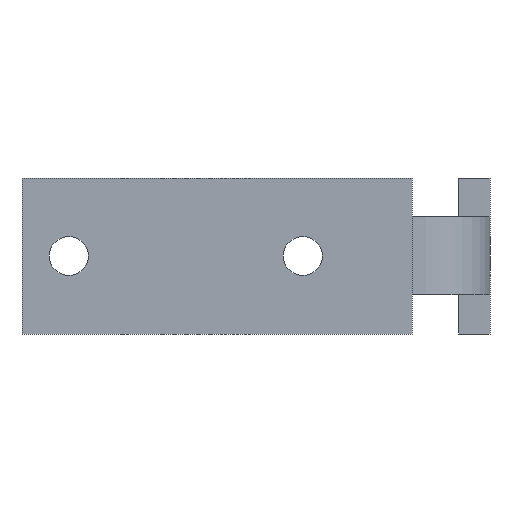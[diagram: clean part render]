
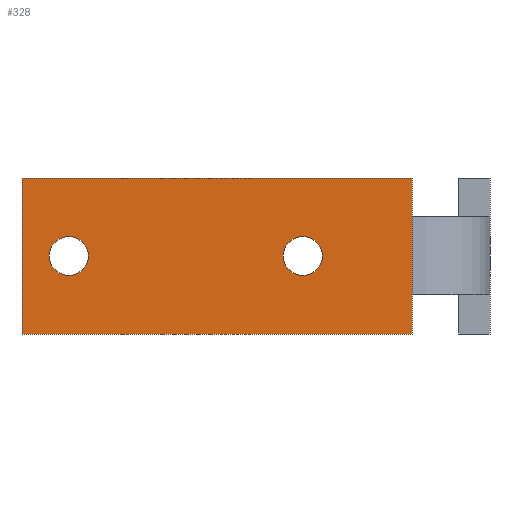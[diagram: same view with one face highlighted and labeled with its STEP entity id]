
A CAD part, front view. The second image highlights one B-rep face of the part: STEP entity #328.
In plain terms, the highlighted planar face has unit normal (0, -1, 0).
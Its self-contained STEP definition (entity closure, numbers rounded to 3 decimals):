
#11 = VECTOR ( 'NONE', #379, 1000. ) ;
#12 = DIRECTION ( 'NONE',  ( 0., 0., 1. ) ) ;
#26 = ORIENTED_EDGE ( 'NONE', *, *, #778, .T. ) ;
#34 = LINE ( 'NONE', #707, #427 ) ;
#45 = PLANE ( 'NONE',  #935 ) ;
#49 = VERTEX_POINT ( 'NONE', #544 ) ;
#78 = VERTEX_POINT ( 'NONE', #364 ) ;
#81 = EDGE_CURVE ( 'NONE', #682, #309, #169, .T. ) ;
#103 = EDGE_LOOP ( 'NONE', ( #853, #26 ) ) ;
#104 = VECTOR ( 'NONE', #665, 1000. ) ;
#110 = VECTOR ( 'NONE', #175, 1000. ) ;
#115 = CARTESIAN_POINT ( 'NONE',  ( 50., 0., -10. ) ) ;
#121 = ORIENTED_EDGE ( 'NONE', *, *, #176, .F. ) ;
#128 = DIRECTION ( 'NONE',  ( 0., 1., 0. ) ) ;
#135 = DIRECTION ( 'NONE',  ( 0., 0., -1. ) ) ;
#137 = VECTOR ( 'NONE', #215, 1000. ) ;
#153 = LINE ( 'NONE', #308, #104 ) ;
#169 = CIRCLE ( 'NONE', #857, 2.5 ) ;
#175 = DIRECTION ( 'NONE',  ( 0., 0., -1. ) ) ;
#176 = EDGE_CURVE ( 'NONE', #49, #192, #153, .T. ) ;
#177 = ORIENTED_EDGE ( 'NONE', *, *, #692, .F. ) ;
#192 = VERTEX_POINT ( 'NONE', #271 ) ;
#200 = EDGE_CURVE ( 'NONE', #760, #367, #780, .T. ) ;
#213 = CARTESIAN_POINT ( 'NONE',  ( 0., 0., 10. ) ) ;
#215 = DIRECTION ( 'NONE',  ( 0., 0., -1. ) ) ;
#228 = CARTESIAN_POINT ( 'NONE',  ( 50., 0., 10. ) ) ;
#248 = VECTOR ( 'NONE', #558, 1000. ) ;
#259 = DIRECTION ( 'NONE',  ( 0., 0., 1. ) ) ;
#271 = CARTESIAN_POINT ( 'NONE',  ( 50., 0., -5. ) ) ;
#278 = LINE ( 'NONE', #892, #110 ) ;
#308 = CARTESIAN_POINT ( 'NONE',  ( 50., 0., 5. ) ) ;
#309 = VERTEX_POINT ( 'NONE', #918 ) ;
#328 = ADVANCED_FACE ( 'NONE', ( #637, #448, #802 ), #45, .F. ) ;
#331 = LINE ( 'NONE', #921, #137 ) ;
#334 = CARTESIAN_POINT ( 'NONE',  ( 0., 0., 10. ) ) ;
#342 = CARTESIAN_POINT ( 'NONE',  ( 36., 0., 0. ) ) ;
#364 = CARTESIAN_POINT ( 'NONE',  ( 6., 0., 2.5 ) ) ;
#367 = VERTEX_POINT ( 'NONE', #115 ) ;
#370 = ORIENTED_EDGE ( 'NONE', *, *, #434, .T. ) ;
#376 = CARTESIAN_POINT ( 'NONE',  ( 36., 0., -2.5 ) ) ;
#379 = DIRECTION ( 'NONE',  ( 1., 0., 0. ) ) ;
#391 = CARTESIAN_POINT ( 'NONE',  ( 0., 0., -10. ) ) ;
#404 = CIRCLE ( 'NONE', #504, 2.5 ) ;
#406 = EDGE_CURVE ( 'NONE', #906, #49, #34, .T. ) ;
#407 = CARTESIAN_POINT ( 'NONE',  ( 6., 0., 0. ) ) ;
#420 = EDGE_LOOP ( 'NONE', ( #370, #761 ) ) ;
#423 = ORIENTED_EDGE ( 'NONE', *, *, #200, .T. ) ;
#427 = VECTOR ( 'NONE', #135, 1000. ) ;
#429 = DIRECTION ( 'NONE',  ( 0., 0., 1. ) ) ;
#434 = EDGE_CURVE ( 'NONE', #309, #682, #404, .T. ) ;
#444 = AXIS2_PLACEMENT_3D ( 'NONE', #407, #908, #259 ) ;
#448 = FACE_BOUND ( 'NONE', #103, .T. ) ;
#478 = ORIENTED_EDGE ( 'NONE', *, *, #406, .F. ) ;
#483 = EDGE_CURVE ( 'NONE', #192, #367, #331, .T. ) ;
#490 = ORIENTED_EDGE ( 'NONE', *, *, #483, .F. ) ;
#504 = AXIS2_PLACEMENT_3D ( 'NONE', #342, #128, #429 ) ;
#536 = VERTEX_POINT ( 'NONE', #631 ) ;
#544 = CARTESIAN_POINT ( 'NONE',  ( 50., 0., 5. ) ) ;
#552 = ORIENTED_EDGE ( 'NONE', *, *, #767, .T. ) ;
#556 = VERTEX_POINT ( 'NONE', #213 ) ;
#558 = DIRECTION ( 'NONE',  ( 1., 0., 0. ) ) ;
#571 = CIRCLE ( 'NONE', #444, 2.5 ) ;
#617 = EDGE_LOOP ( 'NONE', ( #423, #490, #121, #478, #177, #552 ) ) ;
#631 = CARTESIAN_POINT ( 'NONE',  ( 6., 0., -2.5 ) ) ;
#635 = CARTESIAN_POINT ( 'NONE',  ( 0., 0., -10. ) ) ;
#637 = FACE_BOUND ( 'NONE', #420, .T. ) ;
#653 = EDGE_CURVE ( 'NONE', #78, #536, #889, .T. ) ;
#665 = DIRECTION ( 'NONE',  ( 0., 0., -1. ) ) ;
#682 = VERTEX_POINT ( 'NONE', #376 ) ;
#687 = DIRECTION ( 'NONE',  ( 0., 0., 1. ) ) ;
#692 = EDGE_CURVE ( 'NONE', #556, #906, #834, .T. ) ;
#707 = CARTESIAN_POINT ( 'NONE',  ( 50., 0., 10. ) ) ;
#760 = VERTEX_POINT ( 'NONE', #391 ) ;
#761 = ORIENTED_EDGE ( 'NONE', *, *, #81, .T. ) ;
#767 = EDGE_CURVE ( 'NONE', #556, #760, #278, .T. ) ;
#773 = DIRECTION ( 'NONE',  ( 0., 1., 0. ) ) ;
#778 = EDGE_CURVE ( 'NONE', #536, #78, #571, .T. ) ;
#780 = LINE ( 'NONE', #635, #248 ) ;
#802 = FACE_OUTER_BOUND ( 'NONE', #617, .T. ) ;
#807 = DIRECTION ( 'NONE',  ( 0., 1., 0. ) ) ;
#814 = CARTESIAN_POINT ( 'NONE',  ( 0., 0., 10. ) ) ;
#819 = CARTESIAN_POINT ( 'NONE',  ( 6., 0., 0. ) ) ;
#834 = LINE ( 'NONE', #814, #11 ) ;
#853 = ORIENTED_EDGE ( 'NONE', *, *, #653, .T. ) ;
#857 = AXIS2_PLACEMENT_3D ( 'NONE', #880, #938, #870 ) ;
#870 = DIRECTION ( 'NONE',  ( 0., 0., 1. ) ) ;
#880 = CARTESIAN_POINT ( 'NONE',  ( 36., 0., 0. ) ) ;
#889 = CIRCLE ( 'NONE', #939, 2.5 ) ;
#892 = CARTESIAN_POINT ( 'NONE',  ( 0., 0., 10. ) ) ;
#906 = VERTEX_POINT ( 'NONE', #228 ) ;
#908 = DIRECTION ( 'NONE',  ( 0., 1., 0. ) ) ;
#918 = CARTESIAN_POINT ( 'NONE',  ( 36., 0., 2.5 ) ) ;
#921 = CARTESIAN_POINT ( 'NONE',  ( 50., 0., 10. ) ) ;
#935 = AXIS2_PLACEMENT_3D ( 'NONE', #334, #773, #687 ) ;
#938 = DIRECTION ( 'NONE',  ( 0., 1., 0. ) ) ;
#939 = AXIS2_PLACEMENT_3D ( 'NONE', #819, #807, #12 ) ;
